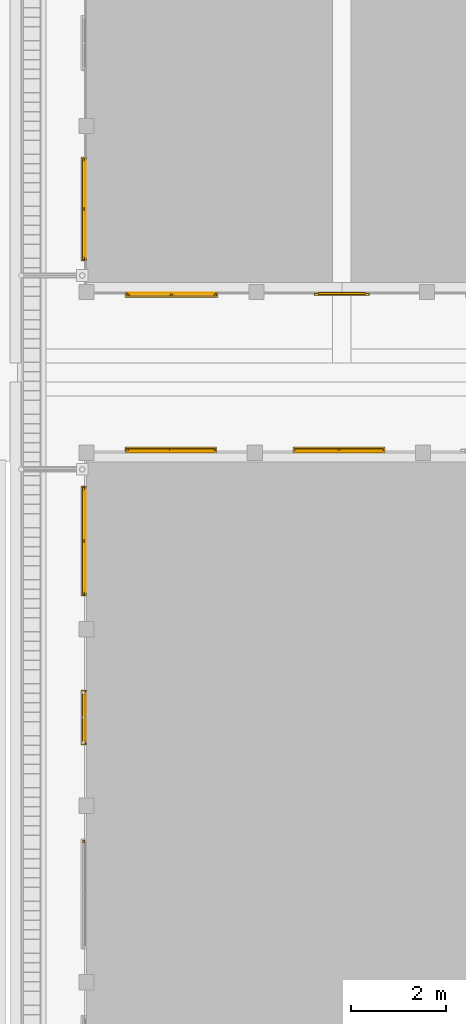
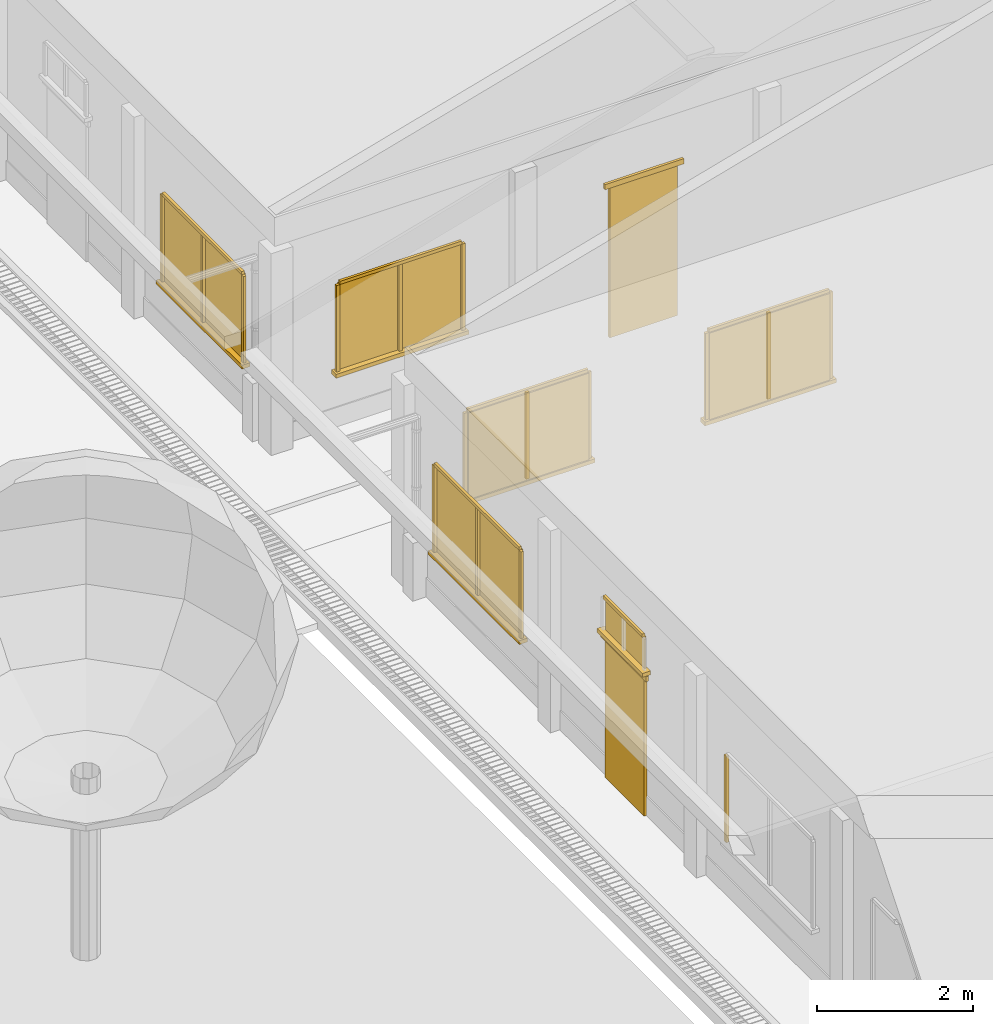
# One storey, part 40 of 166: 34 windows, 4 doors.
"""IFC2X3 building model written with IfcOpenShell, lengths in metres."""

from ifc_helpers import new_model, si_unit, origin, origin_with_axes, place, context, subcontext, project, spatial, faceted_brep, element, save


model = new_model("IFC2X3")

# Units and contexts
model_context = context("Model", 3, precision=1e-05, world=origin_with_axes())
body_context = subcontext(model_context, "Body", "Model", "MODEL_VIEW")
ifc_project = project(units=[si_unit("LENGTHUNIT", "METRE"), si_unit("AREAUNIT", "SQUARE_METRE"), si_unit("VOLUMEUNIT", "CUBIC_METRE"), si_unit("PLANEANGLEUNIT", "RADIAN")], contexts=[model_context])

# Site, building, storey
site_placement = place(None, origin_with_axes())
site = spatial("IfcSite", under=ifc_project, at=site_placement, Name="Predio Los Mangos - Morales, San Martín", CompositionType="ELEMENT")
building_placement = place(site_placement, origin())
building = spatial("IfcBuilding", under=site, at=building_placement, Name="Hogar de Refugio Temporal", CompositionType="ELEMENT")
storey_placement = place(building_placement, origin())
storey = spatial("IfcBuildingStorey", under=building, at=storey_placement, Name="NIVEL 1 (NPT +0.00)", CompositionType="ELEMENT", Elevation=0.0)

# Windows
window_1_placement = place(storey_placement, origin())
element("IfcWindow", 1, at=window_1_placement, inside=storey, Name="E-01_vg0_vid", ObjectType="Ventana", context=body_context, shape_type="Brep", body=[
    faceted_brep([(14.69, 48.72, 1.05), (14.69, 48.74, 1.05), (16.47, 48.74, 1.05), (16.47, 48.72, 1.05), (14.69, 48.72, 2.4), (16.47, 48.72, 2.4), (16.47, 48.74, 2.4), (14.69, 48.74, 2.4)], [[[0, 1, 2, 3]], [[4, 5, 6, 7]], [[0, 3, 5, 4]], [[3, 2, 6, 5]], [[2, 1, 7, 6]], [[1, 0, 4, 7]]]),
])
window_2_placement = place(storey_placement, origin())
element("IfcWindow", 2, at=window_2_placement, inside=storey, Name="E-01_vg0_m", ObjectType="Ventana", context=body_context, shape_type="Brep", body=[
    faceted_brep([(14.64, 48.74, 1.05), (14.64, 48.78, 1.05), (14.69, 48.78, 1.05), (14.69, 48.74, 1.05), (14.64, 48.74, 2.4), (14.69, 48.74, 2.4), (14.69, 48.78, 2.4), (14.64, 48.78, 2.4)], [[[0, 1, 2, 3]], [[4, 5, 6, 7]], [[0, 3, 5, 4]], [[3, 2, 6, 5]], [[2, 1, 7, 6]], [[1, 0, 4, 7]]]),
])
window_3_placement = place(storey_placement, origin())
element("IfcWindow", 3, at=window_3_placement, inside=storey, Name="E-01_vg0_m", ObjectType="Ventana", context=body_context, shape_type="Brep", body=[
    faceted_brep([(16.47, 48.74, 1.05), (16.47, 48.78, 1.05), (16.52, 48.78, 1.05), (16.52, 48.74, 1.05), (16.47, 48.74, 2.4), (16.52, 48.74, 2.4), (16.52, 48.78, 2.4), (16.47, 48.78, 2.4)], [[[0, 1, 2, 3]], [[4, 5, 6, 7]], [[0, 3, 5, 4]], [[3, 2, 6, 5]], [[2, 1, 7, 6]], [[1, 0, 4, 7]]]),
])
window_4_placement = place(storey_placement, origin())
element("IfcWindow", 4, at=window_4_placement, inside=storey, Name="E-01_vg0_m", ObjectType="Ventana", context=body_context, shape_type="Brep", body=[
    faceted_brep([(14.69, 48.74, 2.4), (14.69, 48.78, 2.4), (16.47, 48.78, 2.4), (16.47, 48.74, 2.4), (14.69, 48.74, 2.45), (16.47, 48.74, 2.45), (16.47, 48.78, 2.45), (14.69, 48.78, 2.45)], [[[0, 1, 2, 3]], [[4, 5, 6, 7]], [[0, 3, 5, 4]], [[3, 2, 6, 5]], [[2, 1, 7, 6]], [[1, 0, 4, 7]]]),
])
window_5_placement = place(storey_placement, origin())
element("IfcWindow", 5, at=window_5_placement, inside=storey, Name="E-01_vg0_m", ObjectType="Ventana", context=body_context, shape_type="Brep", body=[
    faceted_brep([(15.555, 48.74, 1.05), (15.555, 48.78, 1.05), (15.605, 48.78, 1.05), (15.605, 48.74, 1.05), (15.555, 48.74, 2.4), (15.605, 48.74, 2.4), (15.605, 48.78, 2.4), (15.555, 48.78, 2.4)], [[[0, 1, 2, 3]], [[4, 5, 6, 7]], [[0, 3, 5, 4]], [[3, 2, 6, 5]], [[2, 1, 7, 6]], [[1, 0, 4, 7]]]),
])
window_6_placement = place(storey_placement, origin())
element("IfcWindow", 6, at=window_6_placement, inside=storey, Name="E-01_vg0_alf", ObjectType="Ventana", context=body_context, shape_type="Brep", body=[
    faceted_brep([(14.61, 48.7, 0.99), (14.61, 48.82, 0.99), (16.55, 48.82, 0.99), (16.55, 48.7, 0.99), (14.61, 48.7, 1.05), (16.55, 48.7, 1.05), (16.55, 48.82, 1.05), (14.61, 48.82, 1.05)], [[[0, 1, 2, 3]], [[4, 5, 6, 7]], [[0, 3, 5, 4]], [[3, 2, 6, 5]], [[2, 1, 7, 6]], [[1, 0, 4, 7]]]),
])
window_7_placement = place(storey_placement, origin())
element("IfcWindow", 7, at=window_7_placement, inside=storey, Name="E-01_vg1_vid", ObjectType="Ventana", context=body_context, shape_type="Brep", body=[
    faceted_brep([(18.25, 48.72, 1.05), (18.25, 48.74, 1.05), (20.03, 48.74, 1.05), (20.03, 48.72, 1.05), (18.25, 48.72, 2.4), (20.03, 48.72, 2.4), (20.03, 48.74, 2.4), (18.25, 48.74, 2.4)], [[[0, 1, 2, 3]], [[4, 5, 6, 7]], [[0, 3, 5, 4]], [[3, 2, 6, 5]], [[2, 1, 7, 6]], [[1, 0, 4, 7]]]),
])
window_8_placement = place(storey_placement, origin())
element("IfcWindow", 8, at=window_8_placement, inside=storey, Name="E-01_vg1_m", ObjectType="Ventana", context=body_context, shape_type="Brep", body=[
    faceted_brep([(18.2, 48.74, 1.05), (18.2, 48.78, 1.05), (18.25, 48.78, 1.05), (18.25, 48.74, 1.05), (18.2, 48.74, 2.4), (18.25, 48.74, 2.4), (18.25, 48.78, 2.4), (18.2, 48.78, 2.4)], [[[0, 1, 2, 3]], [[4, 5, 6, 7]], [[0, 3, 5, 4]], [[3, 2, 6, 5]], [[2, 1, 7, 6]], [[1, 0, 4, 7]]]),
])
window_9_placement = place(storey_placement, origin())
element("IfcWindow", 9, at=window_9_placement, inside=storey, Name="E-01_vg1_m", ObjectType="Ventana", context=body_context, shape_type="Brep", body=[
    faceted_brep([(20.03, 48.74, 1.05), (20.03, 48.78, 1.05), (20.08, 48.78, 1.05), (20.08, 48.74, 1.05), (20.03, 48.74, 2.4), (20.08, 48.74, 2.4), (20.08, 48.78, 2.4), (20.03, 48.78, 2.4)], [[[0, 1, 2, 3]], [[4, 5, 6, 7]], [[0, 3, 5, 4]], [[3, 2, 6, 5]], [[2, 1, 7, 6]], [[1, 0, 4, 7]]]),
])
window_10_placement = place(storey_placement, origin())
element("IfcWindow", 10, at=window_10_placement, inside=storey, Name="E-01_vg1_m", ObjectType="Ventana", context=body_context, shape_type="Brep", body=[
    faceted_brep([(18.25, 48.74, 2.4), (18.25, 48.78, 2.4), (20.03, 48.78, 2.4), (20.03, 48.74, 2.4), (18.25, 48.74, 2.45), (20.03, 48.74, 2.45), (20.03, 48.78, 2.45), (18.25, 48.78, 2.45)], [[[0, 1, 2, 3]], [[4, 5, 6, 7]], [[0, 3, 5, 4]], [[3, 2, 6, 5]], [[2, 1, 7, 6]], [[1, 0, 4, 7]]]),
])
window_11_placement = place(storey_placement, origin())
element("IfcWindow", 11, at=window_11_placement, inside=storey, Name="E-01_vg1_m", ObjectType="Ventana", context=body_context, shape_type="Brep", body=[
    faceted_brep([(19.115, 48.74, 1.05), (19.115, 48.78, 1.05), (19.165, 48.78, 1.05), (19.165, 48.74, 1.05), (19.115, 48.74, 2.4), (19.165, 48.74, 2.4), (19.165, 48.78, 2.4), (19.115, 48.78, 2.4)], [[[0, 1, 2, 3]], [[4, 5, 6, 7]], [[0, 3, 5, 4]], [[3, 2, 6, 5]], [[2, 1, 7, 6]], [[1, 0, 4, 7]]]),
])
window_12_placement = place(storey_placement, origin())
element("IfcWindow", 12, at=window_12_placement, inside=storey, Name="E-01_vg1_alf", ObjectType="Ventana", context=body_context, shape_type="Brep", body=[
    faceted_brep([(18.17, 48.7, 0.99), (18.17, 48.82, 0.99), (20.11, 48.82, 0.99), (20.11, 48.7, 0.99), (18.17, 48.7, 1.05), (20.11, 48.7, 1.05), (20.11, 48.82, 1.05), (18.17, 48.82, 1.05)], [[[0, 1, 2, 3]], [[4, 5, 6, 7]], [[0, 3, 5, 4]], [[3, 2, 6, 5]], [[2, 1, 7, 6]], [[1, 0, 4, 7]]]),
])
window_13_placement = place(storey_placement, origin())
element("IfcWindow", 13, at=window_13_placement, inside=storey, Name="E-01_v3_m", ObjectType="Ventana", context=body_context, shape_type="Brep", body=[
    faceted_brep([(13.72, 40.4493, 1.05), (13.72, 40.4993, 1.05), (13.76, 40.4993, 1.05), (13.76, 40.4493, 1.05), (13.72, 40.4493, 2.4), (13.76, 40.4493, 2.4), (13.76, 40.4993, 2.4), (13.72, 40.4993, 2.4)], [[[0, 1, 2, 3]], [[4, 5, 6, 7]], [[0, 3, 5, 4]], [[3, 2, 6, 5]], [[2, 1, 7, 6]], [[1, 0, 4, 7]]]),
])

# Doors
door_1_placement = place(storey_placement, origin())
element("IfcDoor", 14, at=door_1_placement, inside=storey, Name="E-01_p4", ObjectType="Puerta", context=body_context, shape_type="Brep", body=[
    faceted_brep([(13.75, 42.6, 0.15), (13.75, 43.6, 0.15), (13.79, 43.6, 0.15), (13.79, 42.6, 0.15), (13.75, 42.6, 2.3), (13.79, 42.6, 2.3), (13.79, 43.6, 2.3), (13.75, 43.6, 2.3)], [[[0, 1, 2, 3]], [[4, 5, 6, 7]], [[0, 3, 5, 4]], [[3, 2, 6, 5]], [[2, 1, 7, 6]], [[1, 0, 4, 7]]]),
])
door_2_placement = place(storey_placement, origin())
element("IfcDoor", 15, at=door_2_placement, inside=storey, Name="E-01_p4_marco", ObjectType="Puerta", context=body_context, shape_type="Brep", body=[
    faceted_brep([(13.73, 42.52, 2.3), (13.73, 43.68, 2.3), (13.77, 43.68, 2.3), (13.77, 42.52, 2.3), (13.73, 42.52, 2.38), (13.77, 42.52, 2.38), (13.77, 43.68, 2.38), (13.73, 43.68, 2.38)], [[[0, 1, 2, 3]], [[4, 5, 6, 7]], [[0, 3, 5, 4]], [[3, 2, 6, 5]], [[2, 1, 7, 6]], [[1, 0, 4, 7]]]),
])

# Windows
window_14_placement = place(storey_placement, origin())
element("IfcWindow", 16, at=window_14_placement, inside=storey, Name="E-01_vt4_vid", ObjectType="Ventana", context=body_context, shape_type="Brep", body=[
    faceted_brep([(13.76, 42.6, 2.45), (13.76, 43.6, 2.45), (13.78, 43.6, 2.45), (13.78, 42.6, 2.45), (13.76, 42.6, 2.95), (13.78, 42.6, 2.95), (13.78, 43.6, 2.95), (13.76, 43.6, 2.95)], [[[0, 1, 2, 3]], [[4, 5, 6, 7]], [[0, 3, 5, 4]], [[3, 2, 6, 5]], [[2, 1, 7, 6]], [[1, 0, 4, 7]]]),
])
window_15_placement = place(storey_placement, origin())
element("IfcWindow", 17, at=window_15_placement, inside=storey, Name="E-01_vt4_m", ObjectType="Ventana", context=body_context, shape_type="Brep", body=[
    faceted_brep([(13.72, 42.6, 2.95), (13.72, 43.6, 2.95), (13.76, 43.6, 2.95), (13.76, 42.6, 2.95), (13.72, 42.6, 3.0), (13.76, 42.6, 3.0), (13.76, 43.6, 3.0), (13.72, 43.6, 3.0)], [[[0, 1, 2, 3]], [[4, 5, 6, 7]], [[0, 3, 5, 4]], [[3, 2, 6, 5]], [[2, 1, 7, 6]], [[1, 0, 4, 7]]]),
])
window_16_placement = place(storey_placement, origin())
element("IfcWindow", 18, at=window_16_placement, inside=storey, Name="E-01_vt4_alf", ObjectType="Ventana", context=body_context, shape_type="Brep", body=[
    faceted_brep([(13.8, 42.52, 2.39), (13.8, 43.68, 2.39), (13.68, 43.68, 2.39), (13.68, 42.52, 2.39), (13.8, 42.52, 2.45), (13.68, 42.52, 2.45), (13.68, 43.68, 2.45), (13.8, 43.68, 2.45)], [[[0, 1, 2, 3]], [[4, 5, 6, 7]], [[0, 3, 5, 4]], [[3, 2, 6, 5]], [[2, 1, 7, 6]], [[1, 0, 4, 7]]]),
])
window_17_placement = place(storey_placement, origin())
element("IfcWindow", 19, at=window_17_placement, inside=storey, Name="E-01_v5_vid", ObjectType="Ventana", context=body_context, shape_type="Brep", body=[
    faceted_brep([(13.76, 45.7507, 1.05), (13.76, 47.916, 1.05), (13.78, 47.916, 1.05), (13.78, 45.7507, 1.05), (13.76, 45.7507, 2.4), (13.78, 45.7507, 2.4), (13.78, 47.916, 2.4), (13.76, 47.916, 2.4)], [[[0, 1, 2, 3]], [[4, 5, 6, 7]], [[0, 3, 5, 4]], [[3, 2, 6, 5]], [[2, 1, 7, 6]], [[1, 0, 4, 7]]]),
])
window_18_placement = place(storey_placement, origin())
element("IfcWindow", 20, at=window_18_placement, inside=storey, Name="E-01_v5_m", ObjectType="Ventana", context=body_context, shape_type="Brep", body=[
    faceted_brep([(13.72, 45.7007, 1.05), (13.72, 45.7507, 1.05), (13.76, 45.7507, 1.05), (13.76, 45.7007, 1.05), (13.72, 45.7007, 2.4), (13.76, 45.7007, 2.4), (13.76, 45.7507, 2.4), (13.72, 45.7507, 2.4)], [[[0, 1, 2, 3]], [[4, 5, 6, 7]], [[0, 3, 5, 4]], [[3, 2, 6, 5]], [[2, 1, 7, 6]], [[1, 0, 4, 7]]]),
])
window_19_placement = place(storey_placement, origin())
element("IfcWindow", 21, at=window_19_placement, inside=storey, Name="E-01_v5_m", ObjectType="Ventana", context=body_context, shape_type="Brep", body=[
    faceted_brep([(13.72, 47.916, 1.05), (13.72, 47.966, 1.05), (13.76, 47.966, 1.05), (13.76, 47.916, 1.05), (13.72, 47.916, 2.4), (13.76, 47.916, 2.4), (13.76, 47.966, 2.4), (13.72, 47.966, 2.4)], [[[0, 1, 2, 3]], [[4, 5, 6, 7]], [[0, 3, 5, 4]], [[3, 2, 6, 5]], [[2, 1, 7, 6]], [[1, 0, 4, 7]]]),
])
window_20_placement = place(storey_placement, origin())
element("IfcWindow", 22, at=window_20_placement, inside=storey, Name="E-01_v5_m", ObjectType="Ventana", context=body_context, shape_type="Brep", body=[
    faceted_brep([(13.72, 45.7507, 2.4), (13.72, 47.916, 2.4), (13.76, 47.916, 2.4), (13.76, 45.7507, 2.4), (13.72, 45.7507, 2.45), (13.76, 45.7507, 2.45), (13.76, 47.916, 2.45), (13.72, 47.916, 2.45)], [[[0, 1, 2, 3]], [[4, 5, 6, 7]], [[0, 3, 5, 4]], [[3, 2, 6, 5]], [[2, 1, 7, 6]], [[1, 0, 4, 7]]]),
])
window_21_placement = place(storey_placement, origin())
element("IfcWindow", 23, at=window_21_placement, inside=storey, Name="E-01_v5_m", ObjectType="Ventana", context=body_context, shape_type="Brep", body=[
    faceted_brep([(13.72, 46.8083, 1.05), (13.72, 46.8583, 1.05), (13.76, 46.8583, 1.05), (13.76, 46.8083, 1.05), (13.72, 46.8083, 2.4), (13.76, 46.8083, 2.4), (13.76, 46.8583, 2.4), (13.72, 46.8583, 2.4)], [[[0, 1, 2, 3]], [[4, 5, 6, 7]], [[0, 3, 5, 4]], [[3, 2, 6, 5]], [[2, 1, 7, 6]], [[1, 0, 4, 7]]]),
])
window_22_placement = place(storey_placement, origin())
element("IfcWindow", 24, at=window_22_placement, inside=storey, Name="E-01_v5_alf", ObjectType="Ventana", context=body_context, shape_type="Brep", body=[
    faceted_brep([(13.8, 45.6707, 0.99), (13.8, 47.996, 0.99), (13.68, 47.996, 0.99), (13.68, 45.6707, 0.99), (13.8, 45.6707, 1.05), (13.68, 45.6707, 1.05), (13.68, 47.996, 1.05), (13.8, 47.996, 1.05)], [[[0, 1, 2, 3]], [[4, 5, 6, 7]], [[0, 3, 5, 4]], [[3, 2, 6, 5]], [[2, 1, 7, 6]], [[1, 0, 4, 7]]]),
])
window_23_placement = place(storey_placement, origin())
element("IfcWindow", 25, at=window_23_placement, inside=storey, Name="E-04_vg0_vid", ObjectType="Ventana", context=body_context, shape_type="Brep", body=[
    faceted_brep([(14.7, 52.06, 1.05), (14.7, 52.08, 1.05), (16.5, 52.08, 1.05), (16.5, 52.06, 1.05), (14.7, 52.06, 2.4), (16.5, 52.06, 2.4), (16.5, 52.08, 2.4), (14.7, 52.08, 2.4)], [[[0, 1, 2, 3]], [[4, 5, 6, 7]], [[0, 3, 5, 4]], [[3, 2, 6, 5]], [[2, 1, 7, 6]], [[1, 0, 4, 7]]]),
])
window_24_placement = place(storey_placement, origin())
element("IfcWindow", 26, at=window_24_placement, inside=storey, Name="E-04_vg0_m", ObjectType="Ventana", context=body_context, shape_type="Brep", body=[
    faceted_brep([(14.65, 52.02, 1.05), (14.65, 52.06, 1.05), (14.7, 52.06, 1.05), (14.7, 52.02, 1.05), (14.65, 52.02, 2.4), (14.7, 52.02, 2.4), (14.7, 52.06, 2.4), (14.65, 52.06, 2.4)], [[[0, 1, 2, 3]], [[4, 5, 6, 7]], [[0, 3, 5, 4]], [[3, 2, 6, 5]], [[2, 1, 7, 6]], [[1, 0, 4, 7]]]),
])
window_25_placement = place(storey_placement, origin())
element("IfcWindow", 27, at=window_25_placement, inside=storey, Name="E-04_vg0_m", ObjectType="Ventana", context=body_context, shape_type="Brep", body=[
    faceted_brep([(16.5, 52.02, 1.05), (16.5, 52.06, 1.05), (16.55, 52.06, 1.05), (16.55, 52.02, 1.05), (16.5, 52.02, 2.4), (16.55, 52.02, 2.4), (16.55, 52.06, 2.4), (16.5, 52.06, 2.4)], [[[0, 1, 2, 3]], [[4, 5, 6, 7]], [[0, 3, 5, 4]], [[3, 2, 6, 5]], [[2, 1, 7, 6]], [[1, 0, 4, 7]]]),
])
window_26_placement = place(storey_placement, origin())
element("IfcWindow", 28, at=window_26_placement, inside=storey, Name="E-04_vg0_m", ObjectType="Ventana", context=body_context, shape_type="Brep", body=[
    faceted_brep([(14.7, 52.02, 2.4), (14.7, 52.06, 2.4), (16.5, 52.06, 2.4), (16.5, 52.02, 2.4), (14.7, 52.02, 2.45), (16.5, 52.02, 2.45), (16.5, 52.06, 2.45), (14.7, 52.06, 2.45)], [[[0, 1, 2, 3]], [[4, 5, 6, 7]], [[0, 3, 5, 4]], [[3, 2, 6, 5]], [[2, 1, 7, 6]], [[1, 0, 4, 7]]]),
])
window_27_placement = place(storey_placement, origin())
element("IfcWindow", 29, at=window_27_placement, inside=storey, Name="E-04_vg0_m", ObjectType="Ventana", context=body_context, shape_type="Brep", body=[
    faceted_brep([(15.575, 52.02, 1.05), (15.575, 52.06, 1.05), (15.625, 52.06, 1.05), (15.625, 52.02, 1.05), (15.575, 52.02, 2.4), (15.625, 52.02, 2.4), (15.625, 52.06, 2.4), (15.575, 52.06, 2.4)], [[[0, 1, 2, 3]], [[4, 5, 6, 7]], [[0, 3, 5, 4]], [[3, 2, 6, 5]], [[2, 1, 7, 6]], [[1, 0, 4, 7]]]),
])
window_28_placement = place(storey_placement, origin())
element("IfcWindow", 30, at=window_28_placement, inside=storey, Name="E-04_vg0_alf", ObjectType="Ventana", context=body_context, shape_type="Brep", body=[
    faceted_brep([(14.62, 52.1, 0.99), (14.62, 51.98, 0.99), (16.58, 51.98, 0.99), (16.58, 52.1, 0.99), (14.62, 52.1, 1.05), (16.58, 52.1, 1.05), (16.58, 51.98, 1.05), (14.62, 51.98, 1.05)], [[[0, 1, 2, 3]], [[4, 5, 6, 7]], [[0, 3, 5, 4]], [[3, 2, 6, 5]], [[2, 1, 7, 6]], [[1, 0, 4, 7]]]),
])

# Doors
door_3_placement = place(storey_placement, origin())
element("IfcDoor", 31, at=door_3_placement, inside=storey, Name="E-04_pp", ObjectType="Puerta", context=body_context, shape_type="Brep", body=[
    faceted_brep([(18.7, 52.05, 0.15), (18.7, 52.09, 0.15), (19.7, 52.09, 0.15), (19.7, 52.05, 0.15), (18.7, 52.05, 2.5), (19.7, 52.05, 2.5), (19.7, 52.09, 2.5), (18.7, 52.09, 2.5)], [[[0, 1, 2, 3]], [[4, 5, 6, 7]], [[0, 3, 5, 4]], [[3, 2, 6, 5]], [[2, 1, 7, 6]], [[1, 0, 4, 7]]]),
])
door_4_placement = place(storey_placement, origin())
element("IfcDoor", 32, at=door_4_placement, inside=storey, Name="E-04_pp_marco", ObjectType="Puerta", context=body_context, shape_type="Brep", body=[
    faceted_brep([(18.62, 52.03, 2.5), (18.62, 52.07, 2.5), (19.78, 52.07, 2.5), (19.78, 52.03, 2.5), (18.62, 52.03, 2.58), (19.78, 52.03, 2.58), (19.78, 52.07, 2.58), (18.62, 52.07, 2.58)], [[[0, 1, 2, 3]], [[4, 5, 6, 7]], [[0, 3, 5, 4]], [[3, 2, 6, 5]], [[2, 1, 7, 6]], [[1, 0, 4, 7]]]),
])

# Windows
window_29_placement = place(storey_placement, origin())
element("IfcWindow", 33, at=window_29_placement, inside=storey, Name="E-04_v0_vid", ObjectType="Ventana", context=body_context, shape_type="Brep", body=[
    faceted_brep([(13.76, 52.8371, 1.05), (13.76, 54.8729, 1.05), (13.78, 54.8729, 1.05), (13.78, 52.8371, 1.05), (13.76, 52.8371, 2.4), (13.78, 52.8371, 2.4), (13.78, 54.8729, 2.4), (13.76, 54.8729, 2.4)], [[[0, 1, 2, 3]], [[4, 5, 6, 7]], [[0, 3, 5, 4]], [[3, 2, 6, 5]], [[2, 1, 7, 6]], [[1, 0, 4, 7]]]),
])
window_30_placement = place(storey_placement, origin())
element("IfcWindow", 34, at=window_30_placement, inside=storey, Name="E-04_v0_m", ObjectType="Ventana", context=body_context, shape_type="Brep", body=[
    faceted_brep([(13.72, 52.7871, 1.05), (13.72, 52.8371, 1.05), (13.76, 52.8371, 1.05), (13.76, 52.7871, 1.05), (13.72, 52.7871, 2.4), (13.76, 52.7871, 2.4), (13.76, 52.8371, 2.4), (13.72, 52.8371, 2.4)], [[[0, 1, 2, 3]], [[4, 5, 6, 7]], [[0, 3, 5, 4]], [[3, 2, 6, 5]], [[2, 1, 7, 6]], [[1, 0, 4, 7]]]),
])
window_31_placement = place(storey_placement, origin())
element("IfcWindow", 35, at=window_31_placement, inside=storey, Name="E-04_v0_m", ObjectType="Ventana", context=body_context, shape_type="Brep", body=[
    faceted_brep([(13.72, 54.8729, 1.05), (13.72, 54.9229, 1.05), (13.76, 54.9229, 1.05), (13.76, 54.8729, 1.05), (13.72, 54.8729, 2.4), (13.76, 54.8729, 2.4), (13.76, 54.9229, 2.4), (13.72, 54.9229, 2.4)], [[[0, 1, 2, 3]], [[4, 5, 6, 7]], [[0, 3, 5, 4]], [[3, 2, 6, 5]], [[2, 1, 7, 6]], [[1, 0, 4, 7]]]),
])
window_32_placement = place(storey_placement, origin())
element("IfcWindow", 36, at=window_32_placement, inside=storey, Name="E-04_v0_m", ObjectType="Ventana", context=body_context, shape_type="Brep", body=[
    faceted_brep([(13.72, 52.8371, 2.4), (13.72, 54.8729, 2.4), (13.76, 54.8729, 2.4), (13.76, 52.8371, 2.4), (13.72, 52.8371, 2.45), (13.76, 52.8371, 2.45), (13.76, 54.8729, 2.45), (13.72, 54.8729, 2.45)], [[[0, 1, 2, 3]], [[4, 5, 6, 7]], [[0, 3, 5, 4]], [[3, 2, 6, 5]], [[2, 1, 7, 6]], [[1, 0, 4, 7]]]),
])
window_33_placement = place(storey_placement, origin())
element("IfcWindow", 37, at=window_33_placement, inside=storey, Name="E-04_v0_m", ObjectType="Ventana", context=body_context, shape_type="Brep", body=[
    faceted_brep([(13.72, 53.83, 1.05), (13.72, 53.88, 1.05), (13.76, 53.88, 1.05), (13.76, 53.83, 1.05), (13.72, 53.83, 2.4), (13.76, 53.83, 2.4), (13.76, 53.88, 2.4), (13.72, 53.88, 2.4)], [[[0, 1, 2, 3]], [[4, 5, 6, 7]], [[0, 3, 5, 4]], [[3, 2, 6, 5]], [[2, 1, 7, 6]], [[1, 0, 4, 7]]]),
])
window_34_placement = place(storey_placement, origin())
element("IfcWindow", 38, at=window_34_placement, inside=storey, Name="E-04_v0_alf", ObjectType="Ventana", context=body_context, shape_type="Brep", body=[
    faceted_brep([(13.8, 52.7571, 0.99), (13.8, 54.9529, 0.99), (13.68, 54.9529, 0.99), (13.68, 52.7571, 0.99), (13.8, 52.7571, 1.05), (13.68, 52.7571, 1.05), (13.68, 54.9529, 1.05), (13.8, 54.9529, 1.05)], [[[0, 1, 2, 3]], [[4, 5, 6, 7]], [[0, 3, 5, 4]], [[3, 2, 6, 5]], [[2, 1, 7, 6]], [[1, 0, 4, 7]]]),
])

save(model, "model.ifc")
